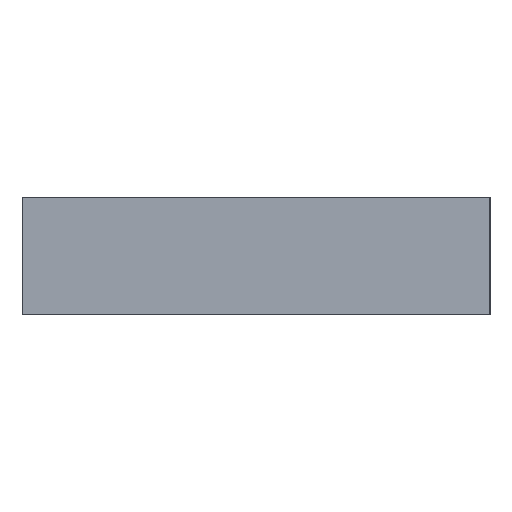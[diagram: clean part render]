
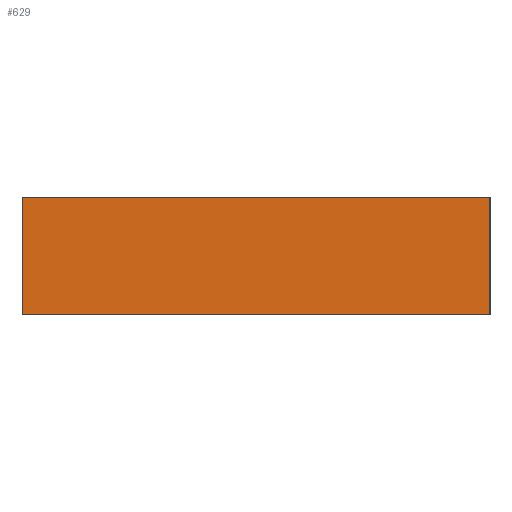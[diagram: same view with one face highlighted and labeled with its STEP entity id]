
A CAD part, left-side view. The second image highlights one B-rep face of the part: STEP entity #629.
In plain terms, the highlighted planar face has unit normal (-1, 0, 0).
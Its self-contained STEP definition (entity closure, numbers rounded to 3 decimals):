
#197 = VERTEX_POINT ( 'NONE', #3085 ) ;
#218 = VERTEX_POINT ( 'NONE', #3134 ) ;
#266 = VERTEX_POINT ( 'NONE', #3129 ) ;
#276 = VERTEX_POINT ( 'NONE', #3128 ) ;
#358 = EDGE_LOOP ( 'NONE', ( #2094, #2062, #2092, #2115 ) ) ;
#465 = FACE_OUTER_BOUND ( 'NONE', #358, .T. ) ;
#629 = ADVANCED_FACE ( 'NONE', ( #465 ), #2641, .F. ) ;
#986 = CARTESIAN_POINT ( 'NONE',  ( -30., 20., 10. ) ) ;
#1004 = DIRECTION ( 'NONE',  ( 0., 0., -1. ) ) ;
#1011 = CARTESIAN_POINT ( 'NONE',  ( -30., 20., 10. ) ) ;
#1014 = DIRECTION ( 'NONE',  ( 0., -1., 0. ) ) ;
#1020 = CARTESIAN_POINT ( 'NONE',  ( -30., -20., 10. ) ) ;
#1043 = DIRECTION ( 'NONE',  ( 0., 0., -1. ) ) ;
#1323 = CARTESIAN_POINT ( 'NONE',  ( -30., 20., 0. ) ) ;
#1335 = DIRECTION ( 'NONE',  ( 0., -1., 0. ) ) ;
#1805 = LINE ( 'NONE', #1011, #1822 ) ;
#1806 = VECTOR ( 'NONE', #1004, 1000. ) ;
#1814 = LINE ( 'NONE', #1020, #1818 ) ;
#1818 = VECTOR ( 'NONE', #1043, 1000. ) ;
#1819 = LINE ( 'NONE', #986, #1806 ) ;
#1822 = VECTOR ( 'NONE', #1014, 1000. ) ;
#1866 = VECTOR ( 'NONE', #1335, 1000. ) ;
#1874 = LINE ( 'NONE', #1323, #1866 ) ;
#2062 = ORIENTED_EDGE ( 'NONE', *, *, #2414, .F. ) ;
#2092 = ORIENTED_EDGE ( 'NONE', *, *, #2403, .F. ) ;
#2094 = ORIENTED_EDGE ( 'NONE', *, *, #2236, .T. ) ;
#2115 = ORIENTED_EDGE ( 'NONE', *, *, #2409, .T. ) ;
#2236 = EDGE_CURVE ( 'NONE', #197, #266, #1874, .T. ) ;
#2403 = EDGE_CURVE ( 'NONE', #218, #276, #1805, .T. ) ;
#2409 = EDGE_CURVE ( 'NONE', #218, #197, #1819, .T. ) ;
#2414 = EDGE_CURVE ( 'NONE', #276, #266, #1814, .T. ) ;
#2458 = AXIS2_PLACEMENT_3D ( 'NONE', #2691, #2646, #2683 ) ;
#2641 = PLANE ( 'NONE',  #2458 ) ;
#2646 = DIRECTION ( 'NONE',  ( 1., 0., 0. ) ) ;
#2683 = DIRECTION ( 'NONE',  ( 0., 1., 0. ) ) ;
#2691 = CARTESIAN_POINT ( 'NONE',  ( -30., 20., 10. ) ) ;
#3085 = CARTESIAN_POINT ( 'NONE',  ( -30., 20., 0. ) ) ;
#3128 = CARTESIAN_POINT ( 'NONE',  ( -30., -20., 10. ) ) ;
#3129 = CARTESIAN_POINT ( 'NONE',  ( -30., -20., 0. ) ) ;
#3134 = CARTESIAN_POINT ( 'NONE',  ( -30., 20., 10. ) ) ;
